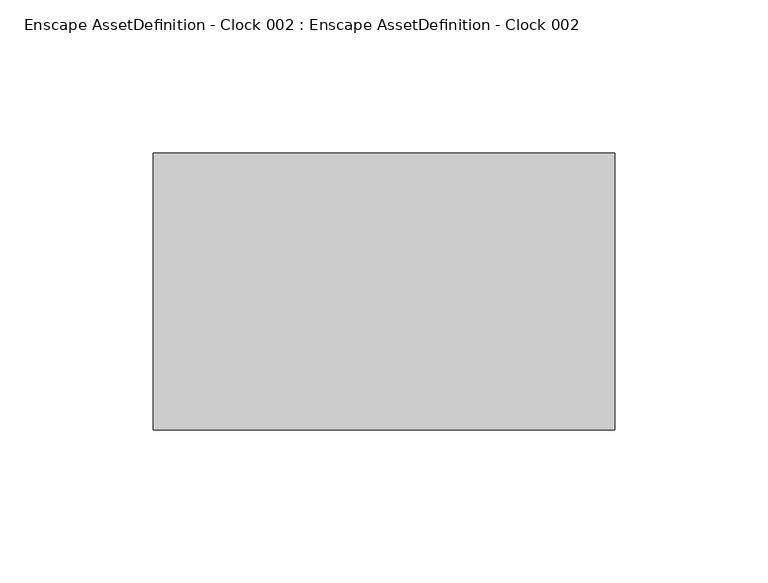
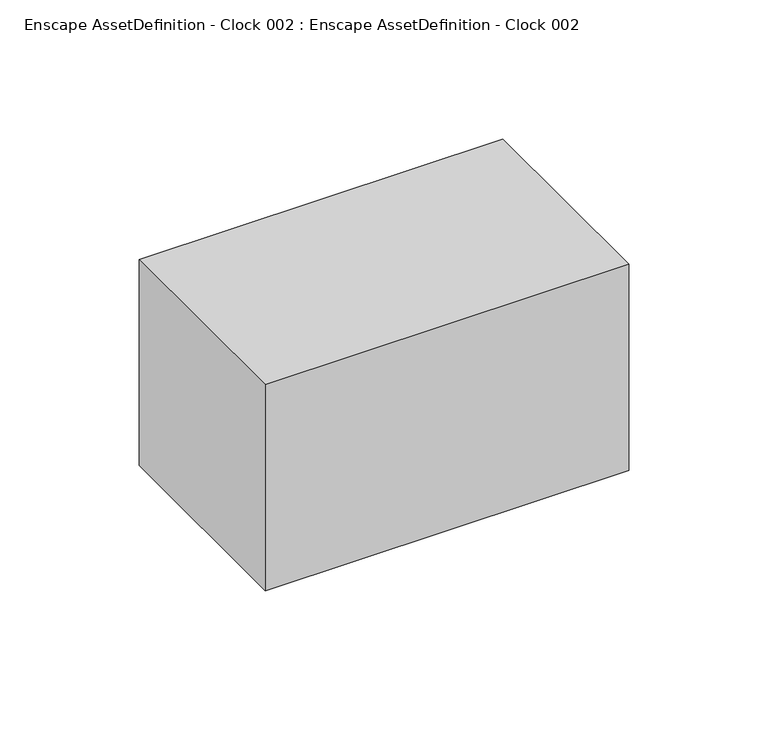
"""IFC4 building model written with IfcOpenShell, lengths in millimetres: geographic element geometry, Enscape AssetDefinition - Clock 002 : Enscape AssetDefinition - Clock 002."""

from ifc_helpers import new_model, si_unit, origin, place, context, project, spatial, triangles, source, transform, mapped, element, save


def enscape_assetdefinition_clock_002_enscape_assetdefinition_3edd2a66(model_context):
    return source(origin(), model_context, "Body", "Tessellation", [
        triangles([(75.3282691, -45.1969596, 4.5417925), (75.3282691, 45.1969596, 94.9357114), (-75.3282691, 45.1969596, 94.9357114), (-75.3282691, 45.1969596, 4.5417925), (75.3282691, 45.1969596, 4.5417925), (-75.3282691, -45.1969596, 94.9357114), (75.3282691, -45.1969596, 94.9357114), (-75.3282691, -45.1969596, 4.5417925)], [[4, 8, 6], [5, 4, 3], [1, 5, 2], [8, 1, 7], [6, 7, 2], [8, 4, 5], [4, 6, 3], [5, 3, 2], [1, 2, 7], [8, 7, 6], [6, 2, 3], [8, 5, 1]]),
    ])


if __name__ == "__main__":
    model = new_model("IFC4")
    model_context = context("Model", 3, world=origin())
    ifc_project = project(units=[si_unit("LENGTHUNIT", "METRE", prefix="MILLI")], contexts=[model_context])
    site = spatial("IfcSite", under=ifc_project)
    building = spatial("IfcBuilding", under=site)
    placement = place(None, origin())
    enscape_assetdefinition_clock_002_enscape_assetdefinition_shape = enscape_assetdefinition_clock_002_enscape_assetdefinition_3edd2a66(model_context)
    element("IfcGeographicElement", 1, ObjectType="Enscape AssetDefinition - Clock 002 : Enscape AssetDefinition - Clock 002", at=placement, inside=building, context=model_context, shape_type="MappedRepresentation", body=[
        mapped(enscape_assetdefinition_clock_002_enscape_assetdefinition_shape, transform((0.0, 0.0, 0.0), x_axis=(1.0, 0.0, 0.0), y_axis=(0.0, 1.0, 0.0), z_axis=(0.0, 0.0, 1.0))),
    ])
    save(model, "model.ifc")
